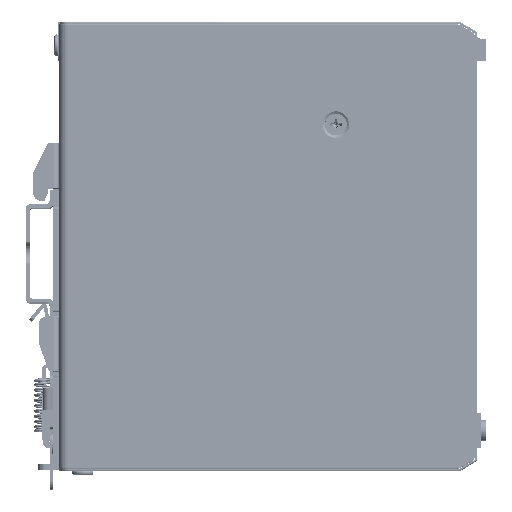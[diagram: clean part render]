
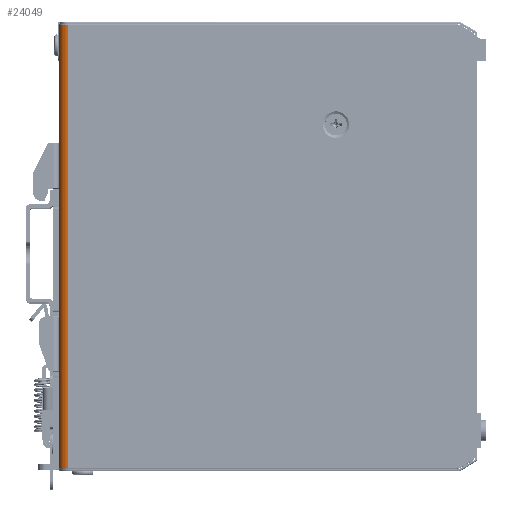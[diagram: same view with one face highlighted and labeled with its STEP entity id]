
A CAD part, top view. The second image highlights one B-rep face of the part: STEP entity #24049.
In plain terms, the highlighted cylindrical face has radius 2.5 mm (diameter 5 mm), a partial arc.
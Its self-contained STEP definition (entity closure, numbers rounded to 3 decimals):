
#5349 = CIRCLE ( 'NONE', #173177, 2.5 ) ;
#7187 = CYLINDRICAL_SURFACE ( 'NONE', #25523, 2.5 ) ;
#8860 = VERTEX_POINT ( 'NONE', #54107 ) ;
#12680 = DIRECTION ( 'NONE',  ( 0., -1., 0. ) ) ;
#14296 = DIRECTION ( 'NONE',  ( 0., -1., 0. ) ) ;
#17007 = EDGE_CURVE ( 'NONE', #84825, #119815, #72797, .T. ) ;
#24049 = ADVANCED_FACE ( 'NONE', ( #98079 ), #7187, .T. ) ;
#25523 = AXIS2_PLACEMENT_3D ( 'NONE', #32992, #87313, #152445 ) ;
#26190 = DIRECTION ( 'NONE',  ( 0., 0., 1. ) ) ;
#27060 = CARTESIAN_POINT ( 'NONE',  ( 1., 61.1, 17.5 ) ) ;
#27754 = ORIENTED_EDGE ( 'NONE', *, *, #74073, .F. ) ;
#32992 = CARTESIAN_POINT ( 'NONE',  ( 1., 61.2, 17.5 ) ) ;
#41123 = DIRECTION ( 'NONE',  ( 0., 0., 1. ) ) ;
#46603 = ORIENTED_EDGE ( 'NONE', *, *, #171316, .F. ) ;
#54107 = CARTESIAN_POINT ( 'NONE',  ( 1., 61.1, 20. ) ) ;
#55233 = CARTESIAN_POINT ( 'NONE',  ( 1., 61.1, 20. ) ) ;
#57027 = EDGE_CURVE ( 'NONE', #8860, #119815, #5349, .T. ) ;
#59430 = CARTESIAN_POINT ( 'NONE',  ( -1.5, -61.1, 17.5 ) ) ;
#63057 = AXIS2_PLACEMENT_3D ( 'NONE', #124846, #12680, #41123 ) ;
#72797 = LINE ( 'NONE', #59430, #90912 ) ;
#74073 = EDGE_CURVE ( 'NONE', #8860, #119630, #148819, .T. ) ;
#84825 = VERTEX_POINT ( 'NONE', #136891 ) ;
#87313 = DIRECTION ( 'NONE',  ( 0., -1., 0. ) ) ;
#87963 = CARTESIAN_POINT ( 'NONE',  ( -1.5, 61.1, 17.5 ) ) ;
#90912 = VECTOR ( 'NONE', #168137, 1000. ) ;
#98079 = FACE_OUTER_BOUND ( 'NONE', #161736, .T. ) ;
#119630 = VERTEX_POINT ( 'NONE', #128499 ) ;
#119815 = VERTEX_POINT ( 'NONE', #87963 ) ;
#123259 = DIRECTION ( 'NONE',  ( 0., -1., 0. ) ) ;
#124846 = CARTESIAN_POINT ( 'NONE',  ( 1., -61.1, 17.5 ) ) ;
#125296 = ORIENTED_EDGE ( 'NONE', *, *, #57027, .T. ) ;
#128499 = CARTESIAN_POINT ( 'NONE',  ( 1., -61.1, 20. ) ) ;
#136891 = CARTESIAN_POINT ( 'NONE',  ( -1.5, -61.1, 17.5 ) ) ;
#142739 = ORIENTED_EDGE ( 'NONE', *, *, #17007, .F. ) ;
#148819 = LINE ( 'NONE', #55233, #167383 ) ;
#152445 = DIRECTION ( 'NONE',  ( 0., 0., 1. ) ) ;
#156951 = CIRCLE ( 'NONE', #63057, 2.5 ) ;
#161736 = EDGE_LOOP ( 'NONE', ( #27754, #125296, #142739, #46603 ) ) ;
#167383 = VECTOR ( 'NONE', #14296, 1000. ) ;
#168137 = DIRECTION ( 'NONE',  ( 0., 1., 0. ) ) ;
#171316 = EDGE_CURVE ( 'NONE', #119630, #84825, #156951, .T. ) ;
#173177 = AXIS2_PLACEMENT_3D ( 'NONE', #27060, #123259, #26190 ) ;
